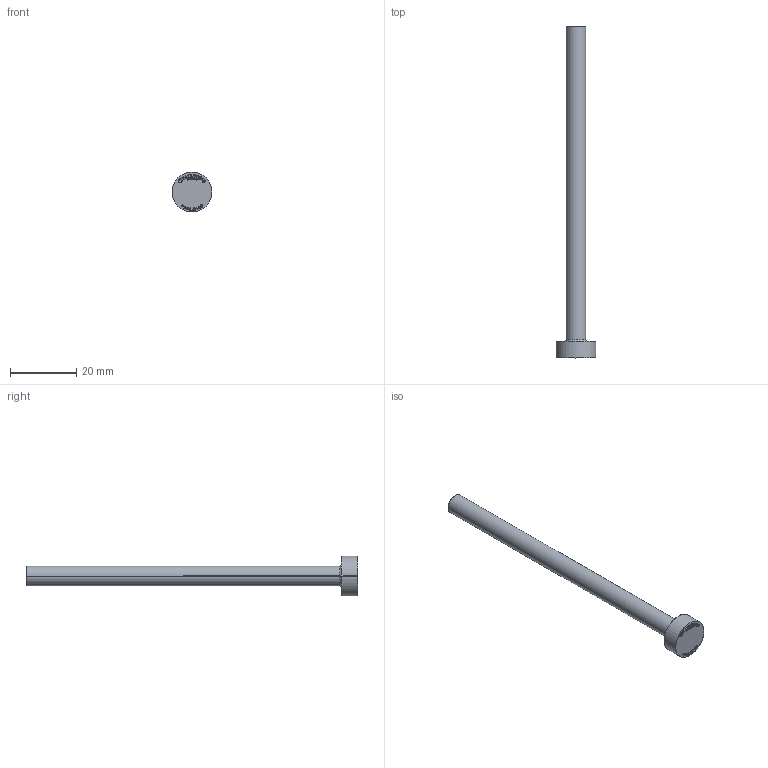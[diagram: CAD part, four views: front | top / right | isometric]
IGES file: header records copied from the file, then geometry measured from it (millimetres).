
Start section: SolidWorks IGES file using analytic representation for surfaces
Global section: file name: C:\Users\User\Downloads\Matripeça 31-08 tar\PB - PINO EXTRATOR TIPO _B_ (CATÁLOGO)\PB06,0\PB06,0100.IGS; native system: SolidWorks 2024; preprocessor: SolidWorks 2024; author: User; date: 260901.143131; units: millimetre
Bounding box: 12 x 100 x 12 mm (x, y, z)
Surface area: 2210.9 mm2 (no closed solid volume)
Topology: 0 solids, 0 shells, 395 faces, 3736 edges, 3736 vertices
Faces by surface type: bspline 381, revolution 14
